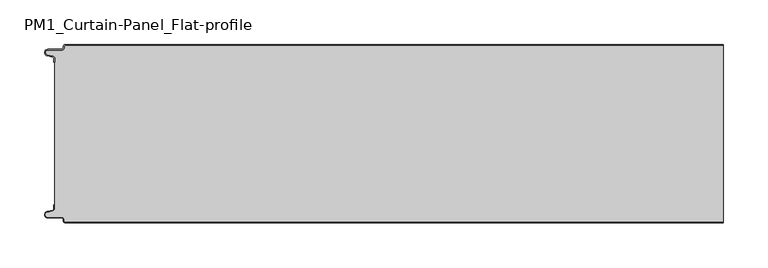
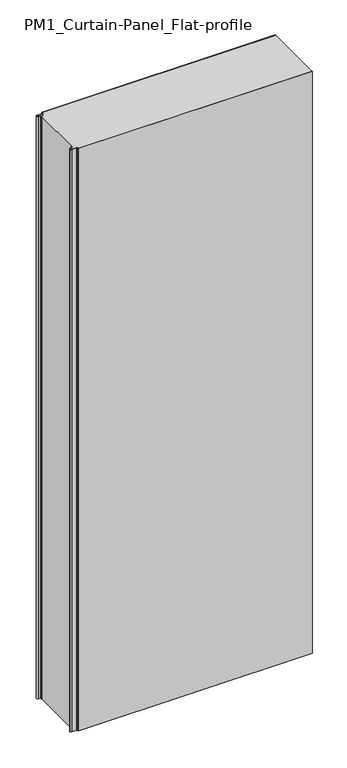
"""IFC4 building model written with IfcOpenShell, lengths in millimetres: plate geometry, PM1_Curtain-Panel_Flat-profile : ACH_PM1_Acoustic-Sectioning-Panel_200M."""

from ifc_helpers import new_model, si_unit, point, frame_2d, origin, origin_with_axes, place, context, project, spatial, polyline, circle_curve, trimmed, segment, composite_curve, outline, extrude, source, transform, mapped, element, save


def pm1_curtain_panel_flat_profile_e4c4468b(model_context):
    return source(origin(), model_context, "Body", "SweptSolid", [
        extrude(outline(composite_curve([segment(trimmed(circle_curve(frame_2d((-362.4119739, -2.0)), 1.2), [point((-362.4119739, -0.8))], [point((-363.6119739, -2.0))], True, "CARTESIAN"), True, "CONTINUOUS"), segment(polyline([(-363.6119739, -2.0), (-363.6119739, -3.4)]), True, "CONTINUOUS"), segment(trimmed(circle_curve(frame_2d((-366.4119739, -3.4)), 2.8), [point((-363.6119739, -3.4))], [point((-366.4119739, -6.2))], False, "CARTESIAN"), True, "CONTINUOUS"), segment(polyline([(-366.4119739, -6.2), (-381.9119739, -6.2)]), True, "CONTINUOUS"), segment(trimmed(circle_curve(frame_2d((-381.9119739, -9.0)), 2.8), [point((-381.9119739, -6.2))], [point((-382.541837, -11.7282362))], True, "CARTESIAN"), True, "CONTINUOUS"), segment(polyline([(-382.541837, -11.7282362), (-376.3821109, -13.150321)]), True, "CONTINUOUS"), segment(trimmed(circle_curve(frame_2d((-377.0119739, -15.878557)), 2.8), [point((-376.3821109, -13.150321))], [point((-374.2119739, -15.878557))], False, "CARTESIAN"), True, "CONTINUOUS"), segment(polyline([(-374.2119739, -15.878557), (-374.2119739, -20.0), (-375.0119739, -20.0), (-375.0119739, -15.878557)]), True, "CONTINUOUS"), segment(trimmed(circle_curve(frame_2d((-377.0119739, -15.878557)), 2.0), [point((-375.0119739, -15.878557))], [point((-376.5620718, -13.9298169))], True, "CARTESIAN"), True, "CONTINUOUS"), segment(polyline([(-376.5620718, -13.9298169), (-382.7217978, -12.507732)]), True, "CONTINUOUS"), segment(trimmed(circle_curve(frame_2d((-381.9119739, -9.0)), 3.6), [point((-382.7217978, -12.507732))], [point((-381.9119739, -5.4))], False, "CARTESIAN"), True, "CONTINUOUS"), segment(polyline([(-381.9119739, -5.4), (-366.4119739, -5.4)]), True, "CONTINUOUS"), segment(trimmed(circle_curve(frame_2d((-366.4119739, -3.4)), 2.0), [point((-366.4119739, -5.4))], [point((-364.4119739, -3.4))], True, "CARTESIAN"), True, "CONTINUOUS"), segment(polyline([(-364.4119739, -3.4), (-364.4119739, -2.0)]), True, "CONTINUOUS"), segment(trimmed(circle_curve(frame_2d((-362.4119739, -2.0)), 2.0), [point((-364.4119739, -2.0))], [point((-362.4119739, 0.0))], False, "CARTESIAN"), True, "CONTINUOUS"), segment(polyline([(-362.4119739, 0.0), (375.0119739, 0.0), (375.0119739, -0.8), (-362.4119739, -0.8)]), True, "CONTINUOUS")], self_intersect=False)), origin_with_axes(), (0.0, 0.0, 1.0), 1945.7507136),
        extrude(outline(composite_curve([segment(polyline([(-374.2119739, -184.1214426), (-374.2119739, -15.8785573)]), True, "CONTINUOUS"), segment(trimmed(circle_curve(frame_2d((-377.0119739, -15.8785573)), 2.8), [point((-374.2119739, -15.8785573))], [point((-376.3821109, -13.1503212))], True, "CARTESIAN"), True, "CONTINUOUS"), segment(polyline([(-376.3821109, -13.1503212), (-382.541837, -11.7282362)]), True, "CONTINUOUS"), segment(trimmed(circle_curve(frame_2d((-381.911974, -9.0)), 2.8), [point((-382.541837, -11.7282362))], [point((-381.911974, -6.2))], False, "CARTESIAN"), True, "CONTINUOUS"), segment(polyline([(-381.911974, -6.2), (-366.411974, -6.2)]), True, "CONTINUOUS"), segment(trimmed(circle_curve(frame_2d((-366.411974, -3.4)), 2.8), [point((-366.411974, -6.2))], [point((-363.611974, -3.4))], True, "CARTESIAN"), True, "CONTINUOUS"), segment(polyline([(-363.611974, -3.4), (-363.611974, -2.0)]), True, "CONTINUOUS"), segment(trimmed(circle_curve(frame_2d((-362.411974, -2.0)), 1.2), [point((-363.611974, -2.0))], [point((-362.411974, -0.8))], False, "CARTESIAN"), True, "CONTINUOUS"), segment(polyline([(-362.411974, -0.8), (375.0119739, -0.8), (375.0119739, -199.2), (-362.411974, -199.2)]), True, "CONTINUOUS"), segment(trimmed(circle_curve(frame_2d((-362.411974, -198.0)), 1.2), [point((-362.411974, -199.2))], [point((-363.611974, -198.0))], False, "CARTESIAN"), True, "CONTINUOUS"), segment(polyline([(-363.611974, -198.0), (-363.611974, -196.6)]), True, "CONTINUOUS"), segment(trimmed(circle_curve(frame_2d((-366.411974, -196.6)), 2.8), [point((-363.611974, -196.6))], [point((-366.411974, -193.8))], True, "CARTESIAN"), True, "CONTINUOUS"), segment(polyline([(-366.411974, -193.8), (-381.911974, -193.8)]), True, "CONTINUOUS"), segment(trimmed(circle_curve(frame_2d((-381.911974, -191.0)), 2.8), [point((-381.911974, -193.8))], [point((-382.541837, -188.2717638))], False, "CARTESIAN"), True, "CONTINUOUS"), segment(polyline([(-382.541837, -188.2717638), (-376.3821109, -186.8496788)]), True, "CONTINUOUS"), segment(trimmed(circle_curve(frame_2d((-377.0119739, -184.1214426)), 2.8), [point((-376.3821109, -186.8496788))], [point((-374.2119739, -184.1214426))], True, "CARTESIAN"), True, "CONTINUOUS")], self_intersect=False)), origin_with_axes(), (0.0, 0.0, 1.0), 1945.7507136),
        extrude(outline(composite_curve([segment(trimmed(circle_curve(frame_2d((-362.4119739, -198.0)), 2.0), [point((-362.4119739, -200.0))], [point((-364.4119739, -198.0))], False, "CARTESIAN"), True, "CONTINUOUS"), segment(polyline([(-364.4119739, -198.0), (-364.4119739, -196.6)]), True, "CONTINUOUS"), segment(trimmed(circle_curve(frame_2d((-366.4119739, -196.6)), 2.0), [point((-364.4119739, -196.6))], [point((-366.4119739, -194.6))], True, "CARTESIAN"), True, "CONTINUOUS"), segment(polyline([(-366.4119739, -194.6), (-381.9119739, -194.6)]), True, "CONTINUOUS"), segment(trimmed(circle_curve(frame_2d((-381.9119739, -191.0)), 3.6), [point((-381.9119739, -194.6))], [point((-382.7217979, -187.4922678))], False, "CARTESIAN"), True, "CONTINUOUS"), segment(polyline([(-382.7217979, -187.4922678), (-376.5620718, -186.070183)]), True, "CONTINUOUS"), segment(trimmed(circle_curve(frame_2d((-377.0119739, -184.121443)), 2.0), [point((-376.5620718, -186.070183))], [point((-375.0119739, -184.121443))], True, "CARTESIAN"), True, "CONTINUOUS"), segment(polyline([(-375.0119739, -184.121443), (-375.0119739, -180.0), (-374.2119739, -180.0), (-374.2119739, -184.121443)]), True, "CONTINUOUS"), segment(trimmed(circle_curve(frame_2d((-377.0119739, -184.121443)), 2.8), [point((-374.2119739, -184.121443))], [point((-376.3821109, -186.8496792))], False, "CARTESIAN"), True, "CONTINUOUS"), segment(polyline([(-376.3821109, -186.8496792), (-382.5418369, -188.271764)]), True, "CONTINUOUS"), segment(trimmed(circle_curve(frame_2d((-381.9119739, -191.0)), 2.8), [point((-382.5418369, -188.271764))], [point((-381.9119739, -193.8))], True, "CARTESIAN"), True, "CONTINUOUS"), segment(polyline([(-381.9119739, -193.8), (-366.4119739, -193.8)]), True, "CONTINUOUS"), segment(trimmed(circle_curve(frame_2d((-366.4119739, -196.6)), 2.8), [point((-366.4119739, -193.8))], [point((-363.6119739, -196.6))], False, "CARTESIAN"), True, "CONTINUOUS"), segment(polyline([(-363.6119739, -196.6), (-363.6119739, -198.0)]), True, "CONTINUOUS"), segment(trimmed(circle_curve(frame_2d((-362.4119739, -198.0)), 1.2), [point((-363.6119739, -198.0))], [point((-362.4119739, -199.2))], True, "CARTESIAN"), True, "CONTINUOUS"), segment(polyline([(-362.4119739, -199.2), (375.0119739, -199.2), (375.0119739, -200.0), (-362.4119739, -200.0)]), True, "CONTINUOUS")], self_intersect=False)), origin_with_axes(), (0.0, 0.0, 1.0), 1945.7507136),
    ])


if __name__ == "__main__":
    model = new_model("IFC4")
    model_context = context("Model", 3, world=origin())
    ifc_project = project(units=[si_unit("LENGTHUNIT", "METRE", prefix="MILLI")], contexts=[model_context])
    site = spatial("IfcSite", under=ifc_project)
    building = spatial("IfcBuilding", under=site)
    placement = place(None, origin())
    pm1_curtain_panel_flat_profile_shape = pm1_curtain_panel_flat_profile_e4c4468b(model_context)
    element("IfcPlate", 1, ObjectType="PM1_Curtain-Panel_Flat-profile : ACH_PM1_Acoustic-Sectioning-Panel_200M", at=placement, inside=building, context=model_context, shape_type="MappedRepresentation", body=[
        mapped(pm1_curtain_panel_flat_profile_shape, transform((0.0, 0.0, 0.0), x_axis=(1.0, 0.0, 0.0), y_axis=(0.0, 1.0, 0.0), z_axis=(0.0, 0.0, 1.0))),
    ])
    save(model, "model.ifc")
